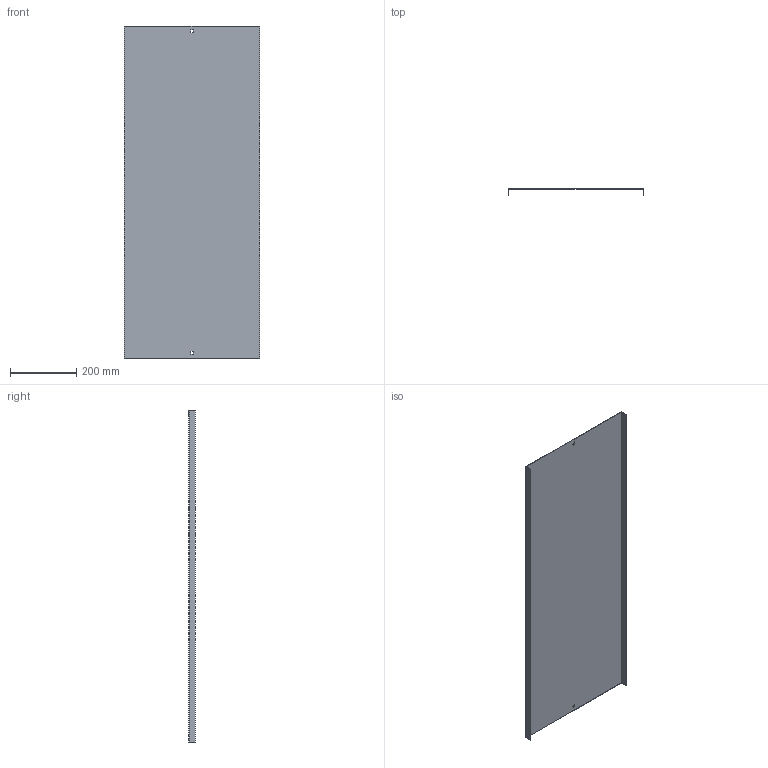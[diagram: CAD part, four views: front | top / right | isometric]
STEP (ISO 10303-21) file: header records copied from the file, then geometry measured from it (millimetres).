
FILE_DESCRIPTION (( 'STEP AP214' ), '1' );
FILE_NAME ('05G1R400.step', '2025-02-21T13:06:54', ( '' ), ( '' ), 'SwSTEP 2.0', 'SolidWorks 2023', '' );
FILE_SCHEMA (( 'AUTOMOTIVE_DESIGN' ));
Length unit declared in the file: millimetre
Products named in the file (1): 05G1R400
Bounding box: 407 x 20 x 1000 mm (x, y, z)
Volume: 665824.5 mm3; surface area: 892191 mm2
Topology: 1 solids, 1 shells, 18 faces, 48 edges, 32 vertices
Faces by surface type: plane 18
Entity records: 583 total; most frequent: CARTESIAN_POINT 99, ORIENTED_EDGE 96, DIRECTION 86, EDGE_CURVE 48, VECTOR 48, LINE 48, VERTEX_POINT 32, EDGE_LOOP 22
